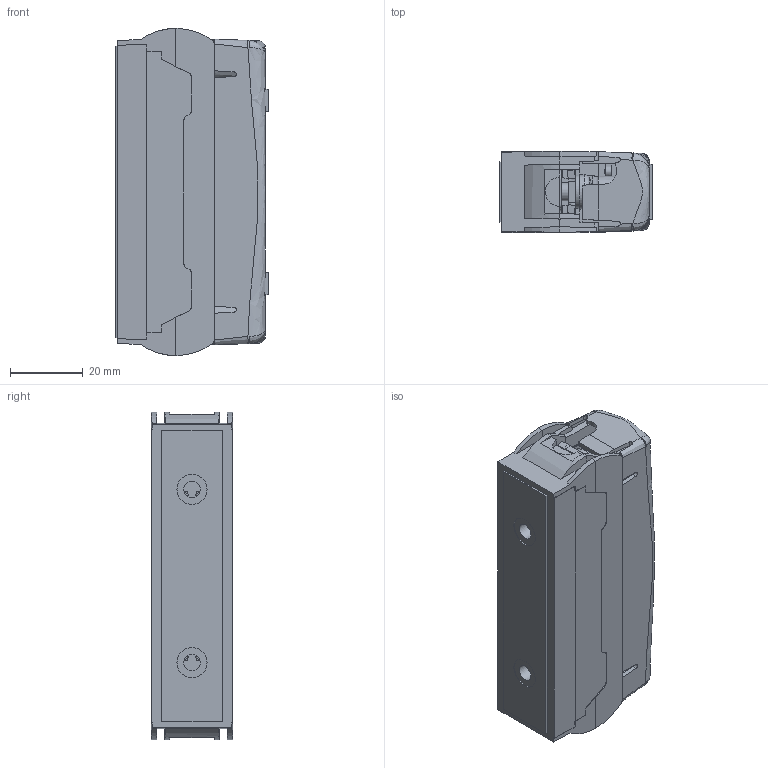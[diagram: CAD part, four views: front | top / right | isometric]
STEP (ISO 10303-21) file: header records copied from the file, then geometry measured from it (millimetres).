
FILE_DESCRIPTION((''),'2;1');
FILE_NAME('R:\Stock\3D pour clients\CELDUC references\2D3D 575 B.stp','2012-07-11T14:27:08',('Georges THOLLOT ','Tl : +33 (0)4 77 53 90 27','gthollot@celduc.com'),('Celduc r e l a i s','5, rue Ampre, BP 30004','42290 SORBIERS - France','Fax. : +33 (0)4 77 53 85 51','N siret 353 310 519 00015','ISO 9001 N QUAL/1993/1106b','www.celduc.com'),'Autodesk Inventor 2010','Autodesk Inventor 2010','');
FILE_SCHEMA(('CONFIG_CONTROL_DESIGN'));
Length unit declared in the file: millimetre
Products named in the file (4): SA and cover; SA; Capot transparent; ESG 6_15_MC
Assembly tree (4 placements, depth 2):
  SA and cover
    SA
    Capot transparent
    ESG 6_15_MC  x2
Bounding box: 41.86 x 22.3 x 90 mm (x, y, z)
Volume: 52437.2 mm3; surface area: 24626.7 mm2
Topology: 4 solids, 4 shells, 893 faces, 2446 edges, 1567 vertices
Faces by surface type: plane 490, bspline 173, cylinder 111, cone 89, torus 22, sphere 8
Full cylindrical faces by diameter (mm): 2.729 x2, 3 x3, 4.5 x1, 4.567 x2, 5 x2, 5.5 x1, 7 x1, 8.5 x2
Entity records: 33025 total; most frequent: CARTESIAN_POINT 12327, ORIENTED_EDGE 4424, DIRECTION 3682, EDGE_CURVE 2212, VERTEX_POINT 1460, VECTOR 1372, LINE 1372, AXIS2_PLACEMENT_3D 1155
